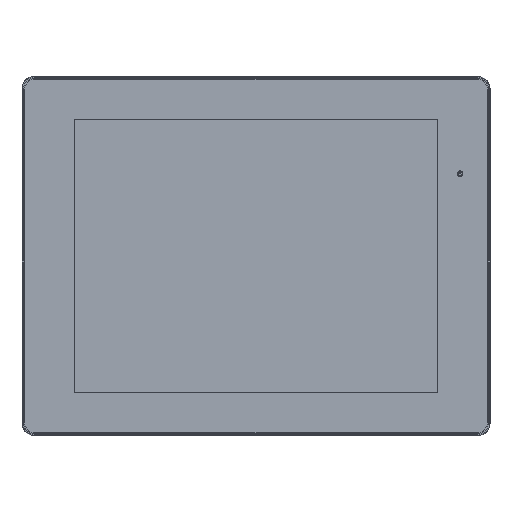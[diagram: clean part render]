
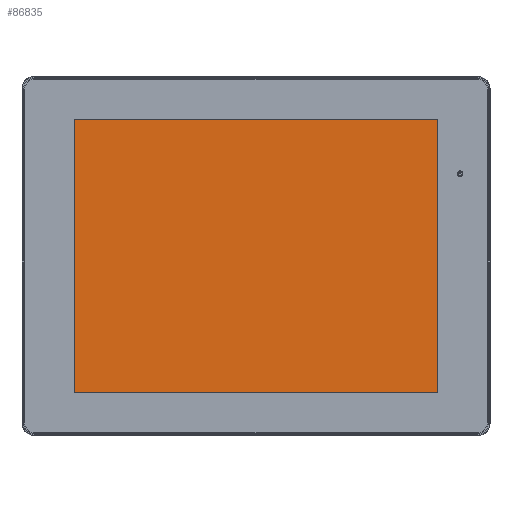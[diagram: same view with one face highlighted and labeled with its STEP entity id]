
A CAD part, top view. The second image highlights one B-rep face of the part: STEP entity #86835.
In plain terms, the highlighted planar face has unit normal (0, 0, 1).
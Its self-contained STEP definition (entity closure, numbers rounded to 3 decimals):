
#8154 = CARTESIAN_POINT ( 'NONE',  ( 123.25, 92.65, 0.18 ) ) ;
#19807 = EDGE_LOOP ( 'NONE', ( #217741, #137492, #281056, #22662 ) ) ;
#22154 = LINE ( 'NONE', #230114, #90672 ) ;
#22662 = ORIENTED_EDGE ( 'NONE', *, *, #167643, .F. ) ;
#31299 = EDGE_CURVE ( 'NONE', #111896, #260901, #122107, .T. ) ;
#43110 = AXIS2_PLACEMENT_3D ( 'NONE', #253888, #113277, #114751 ) ;
#52937 = EDGE_CURVE ( 'NONE', #260901, #56378, #22154, .T. ) ;
#56378 = VERTEX_POINT ( 'NONE', #205916 ) ;
#61386 = PLANE ( 'NONE',  #43110 ) ;
#68079 = CARTESIAN_POINT ( 'NONE',  ( -123.25, -112.9, 0.18 ) ) ;
#72807 = CARTESIAN_POINT ( 'NONE',  ( -123.25, -92.65, 0.18 ) ) ;
#75860 = CARTESIAN_POINT ( 'NONE',  ( 149.9, -92.65, 0.18 ) ) ;
#86835 = ADVANCED_FACE ( 'NONE', ( #161205 ), #61386, .T. ) ;
#90672 = VECTOR ( 'NONE', #182359, 1000. ) ;
#111896 = VERTEX_POINT ( 'NONE', #193050 ) ;
#113277 = DIRECTION ( 'NONE',  ( 0., 0., 1. ) ) ;
#114751 = DIRECTION ( 'NONE',  ( 1., 0., 0. ) ) ;
#122107 = LINE ( 'NONE', #168536, #234659 ) ;
#137492 = ORIENTED_EDGE ( 'NONE', *, *, #31299, .F. ) ;
#150627 = DIRECTION ( 'NONE',  ( -1., 0., 0. ) ) ;
#161205 = FACE_OUTER_BOUND ( 'NONE', #19807, .T. ) ;
#167643 = EDGE_CURVE ( 'NONE', #56378, #225918, #258392, .T. ) ;
#168536 = CARTESIAN_POINT ( 'NONE',  ( 149.9, 92.65, 0.18 ) ) ;
#178919 = LINE ( 'NONE', #68079, #228055 ) ;
#180390 = DIRECTION ( 'NONE',  ( 0., 1., 0. ) ) ;
#182359 = DIRECTION ( 'NONE',  ( 0., -1., 0. ) ) ;
#192398 = DIRECTION ( 'NONE',  ( 1., 0., 0. ) ) ;
#193050 = CARTESIAN_POINT ( 'NONE',  ( -123.25, 92.65, 0.18 ) ) ;
#205916 = CARTESIAN_POINT ( 'NONE',  ( 123.25, -92.65, 0.18 ) ) ;
#217741 = ORIENTED_EDGE ( 'NONE', *, *, #52937, .F. ) ;
#225918 = VERTEX_POINT ( 'NONE', #72807 ) ;
#228055 = VECTOR ( 'NONE', #180390, 1000. ) ;
#230114 = CARTESIAN_POINT ( 'NONE',  ( 123.25, -112.9, 0.18 ) ) ;
#234659 = VECTOR ( 'NONE', #192398, 1000. ) ;
#253888 = CARTESIAN_POINT ( 'NONE',  ( 149.9, -112.9, 0.18 ) ) ;
#258392 = LINE ( 'NONE', #75860, #276221 ) ;
#260901 = VERTEX_POINT ( 'NONE', #8154 ) ;
#262862 = EDGE_CURVE ( 'NONE', #225918, #111896, #178919, .T. ) ;
#276221 = VECTOR ( 'NONE', #150627, 1000. ) ;
#281056 = ORIENTED_EDGE ( 'NONE', *, *, #262862, .F. ) ;
